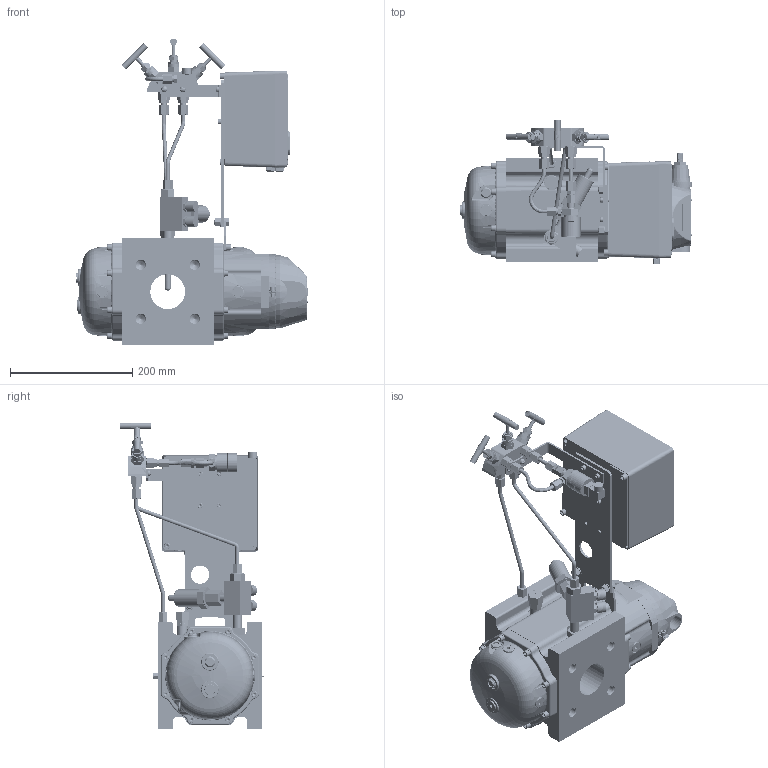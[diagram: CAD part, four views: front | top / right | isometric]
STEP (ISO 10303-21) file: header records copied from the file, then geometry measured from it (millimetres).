
FILE_DESCRIPTION(('STEP AP203'), '1');
FILE_NAME('楥-2230-G65', '', ('UNSPECIFIED'), ('UNSPECIFIED'), 'C3D Converter', 'C3D Toolkit', '');
FILE_SCHEMA(('CONFIG_CONTROL_DESIGN'));
Length unit declared in the file: millimetre
Bounding box: 380.5 x 235.75 x 502.43 mm (x, y, z)
Volume: 7316292.8 mm3; surface area: 752968.6 mm2
Topology: 5 solids, 8 shells, 10470 faces, 29263 edges, 19592 vertices
Faces by surface type: plane 5246, extrusion 2990, cylinder 1595, cone 262, torus 221, bspline 144, sphere 12
Full cylindrical faces by diameter (mm): 1 x23, 1.5 x1, 2 x11, 2.2 x1, 2.5 x4, 3 x17, 3.5 x4, 4 x29, 4.4 x1, 5 x5, 5.4 x1, 5.5 x5, 6 x13, 6.381 x1, 6.5 x9, 7 x16, 7.4 x4, 7.5 x7, 8 x5, 8.466 x1, 8.5 x5, 9.4 x9, 9.526 x2, 9.65 x1, 10 x37, 11 x24, 11.002 x1, 12 x17, 13.134 x3, 13.835 x8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
Entity records: 496669 total; most frequent: CARTESIAN_POINT 160064, ORIENTED_EDGE 55940, DIRECTION 41788, EDGE_CURVE 28570, VERTEX_POINT 19518, VECTOR 19244, LINE 16254, EDGE_LOOP 12044
